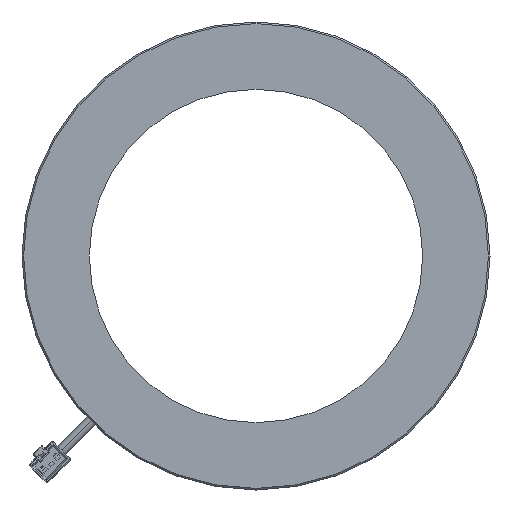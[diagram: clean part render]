
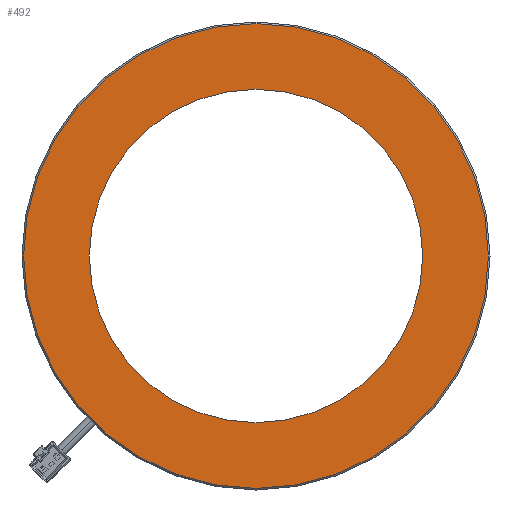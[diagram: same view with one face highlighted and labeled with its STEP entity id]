
A CAD part, front view. The second image highlights one B-rep face of the part: STEP entity #492.
In plain terms, the highlighted planar face has unit normal (0, -1, 0).
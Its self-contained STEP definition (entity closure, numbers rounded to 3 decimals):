
#123=CARTESIAN_POINT('',(0.,-11.,0.));
#124=DIRECTION('',(0.,1.,0.));
#125=DIRECTION('',(1.,0.,0.));
#126=AXIS2_PLACEMENT_3D('',#123,#124,#125);
#128=CARTESIAN_POINT('',(0.,-11.,0.));
#129=DIRECTION('',(0.,1.,0.));
#130=DIRECTION('',(-1.,0.,0.));
#131=AXIS2_PLACEMENT_3D('',#128,#129,#130);
#133=CARTESIAN_POINT('',(0.,-11.,0.));
#134=DIRECTION('',(0.,-1.,0.));
#135=DIRECTION('',(1.,0.,0.));
#136=AXIS2_PLACEMENT_3D('',#133,#134,#135);
#138=CARTESIAN_POINT('',(0.,-11.,0.));
#139=DIRECTION('',(0.,-1.,0.));
#140=DIRECTION('',(-1.,0.,0.));
#141=AXIS2_PLACEMENT_3D('',#138,#139,#140);
#291=CARTESIAN_POINT('',(-72.5,-11.,0.));
#292=VERTEX_POINT('',#291);
#293=CARTESIAN_POINT('',(72.5,-11.,0.));
#294=VERTEX_POINT('',#293);
#295=CARTESIAN_POINT('',(52.,-11.,0.));
#296=CARTESIAN_POINT('',(-52.,-11.,0.));
#297=VERTEX_POINT('',#295);
#298=VERTEX_POINT('',#296);
#477=CARTESIAN_POINT('',(0.,-11.,0.));
#478=DIRECTION('',(0.,1.,0.));
#479=DIRECTION('',(1.,0.,0.));
#480=AXIS2_PLACEMENT_3D('',#477,#478,#479);
#481=PLANE('',#480);
#482=ORIENTED_EDGE('',*,*,#470,.T.);
#483=ORIENTED_EDGE('',*,*,#459,.T.);
#484=EDGE_LOOP('',(#482,#483));
#485=FACE_OUTER_BOUND('',#484,.F.);
#487=ORIENTED_EDGE('',*,*,#486,.T.);
#489=ORIENTED_EDGE('',*,*,#488,.T.);
#490=EDGE_LOOP('',(#487,#489));
#491=FACE_BOUND('',#490,.F.);
#127=CIRCLE('',#126,72.5);
#132=CIRCLE('',#131,72.5);
#137=CIRCLE('',#136,52.);
#142=CIRCLE('',#141,52.);
#459=EDGE_CURVE('',#292,#294,#132,.T.);
#470=EDGE_CURVE('',#294,#292,#127,.T.);
#486=EDGE_CURVE('',#297,#298,#137,.T.);
#488=EDGE_CURVE('',#298,#297,#142,.T.);
#492=ADVANCED_FACE('',(#485,#491),#481,.F.);
